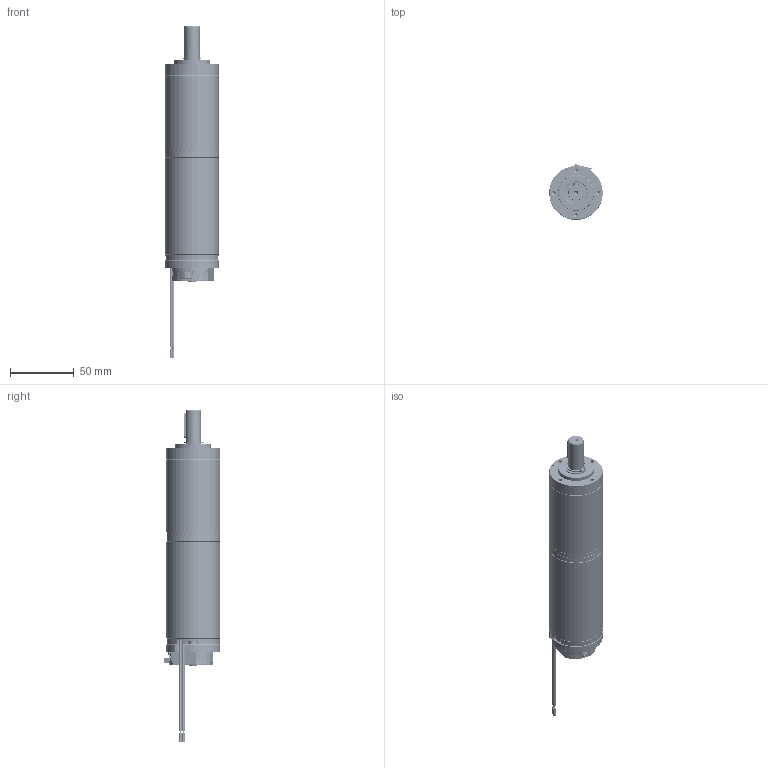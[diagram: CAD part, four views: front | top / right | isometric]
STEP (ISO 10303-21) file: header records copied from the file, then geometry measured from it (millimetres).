
FILE_DESCRIPTION (( 'STEP AP214' ), '1' );
FILE_NAME ('BRx42-40-PGx42 (3 Stage) - Diff Encoder.STEP', '2025-05-13T07:21:46', ( '' ), ( '' ), 'SwSTEP 2.0', 'SolidWorks 2023', '' );
FILE_SCHEMA (( 'AUTOMOTIVE_DESIGN' ));
Length unit declared in the file: millimetre
Products named in the file (1): BRx42-40-PGx42 (3 Stage) - Diff Encoder
Bounding box: 42 x 43.94 x 260.35 mm (x, y, z)
Volume: 146881.6 mm3; surface area: 72537.4 mm2
Topology: 28 solids, 28 shells, 7893 faces, 20921 edges, 13756 vertices
Faces by surface type: plane 5165, cylinder 1757, cone 496, bspline 227, torus 224, sphere 24
Entity records: 343351 total; most frequent: CARTESIAN_POINT 58644, ORIENTED_EDGE 41792, DIRECTION 39771, EDGE_CURVE 20896, VECTOR 14771, LINE 14771, VERTEX_POINT 13756, AXIS2_PLACEMENT_3D 12500
